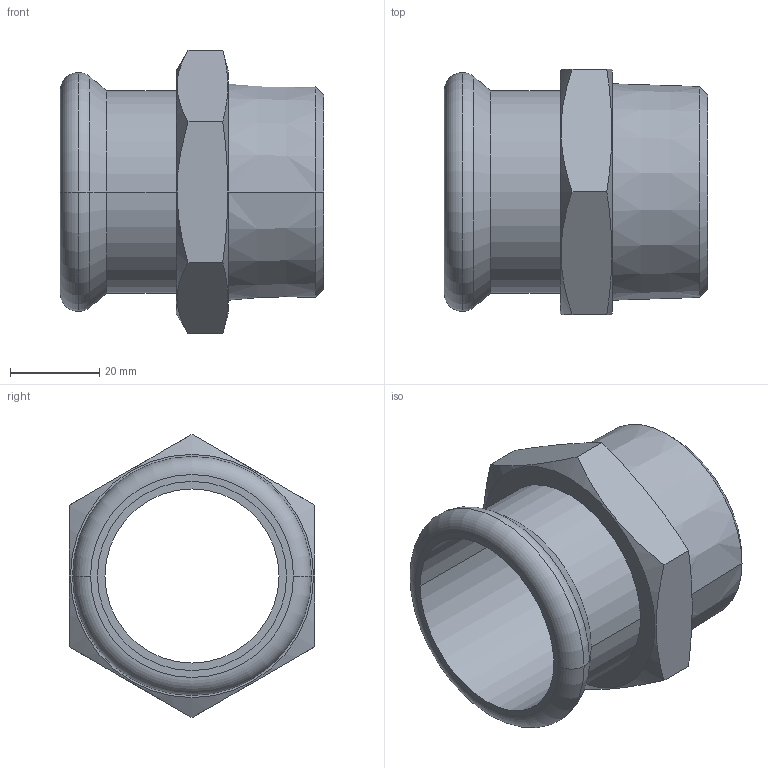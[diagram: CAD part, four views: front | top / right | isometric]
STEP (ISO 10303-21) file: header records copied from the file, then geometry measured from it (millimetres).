
FILE_DESCRIPTION(('CoCreate Modeling STEP Export'),'2;1');
FILE_NAME('C1405 42xR1 1-2.stp','2014-11-07T14:22:46',(''),(''),'CoCreate Modeling STEP processor for AP214 (Solid Model)','CoCreate Modeling 17.00A 17-Jun-2010 (C) Parametric Technology GmbH','');
FILE_SCHEMA(('AUTOMOTIVE_DESIGN { 1 0 10303 214 1 1 1 1 }'));
Length unit declared in the file: millimetre
Products named in the file (2): C1405_42xR1_1-2
Assembly tree (1 placements, depth 2):
  C1405_42xR1_1-2
    C1405_42xR1_1-2
Bounding box: 59 x 55 x 63.51 mm (x, y, z)
Volume: 37742.5 mm3; surface area: 19806.7 mm2
Topology: 1 solids, 1 shells, 31 faces, 70 edges, 44 vertices
Faces by surface type: plane 11, cone 10, cylinder 6, torus 4
Entity records: 1719 total; most frequent: CARTESIAN_POINT 1061, ORIENTED_EDGE 140, DIRECTION 102, EDGE_CURVE 70, VERTEX_POINT 44, AXIS2_PLACEMENT_3D 40, EDGE_LOOP 36, FACE_OUTER_BOUND 31
